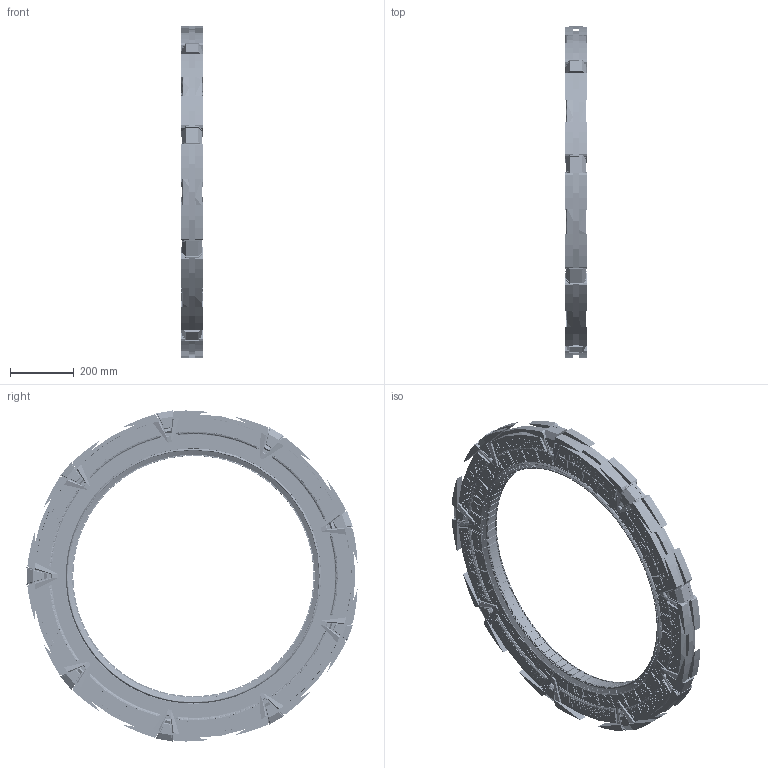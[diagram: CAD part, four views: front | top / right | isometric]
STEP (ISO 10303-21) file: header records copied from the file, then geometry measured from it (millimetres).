
FILE_DESCRIPTION((''),'2;1');
FILE_NAME('D:\Munka\Saját\Csillagkapu\Stargate.stp','2014-10-12T21:04:05',('user'),(''),'Autodesk Inventor 2012','Autodesk Inventor 2012','');
FILE_SCHEMA(('AUTOMOTIVE_DESIGN { 1 0 10303 214 1 1 1 1 }'));
Length unit declared in the file: millimetre
Products named in the file (12): Stargate; Ring; Chavron_1; Chevron Part1; Chevron small light; Chevron small light2; Part1; Ring2; Chevron Light; Chevron light; Chevron light panel
Assembly tree (54 placements, depth 3):
  Stargate
    Stargate  x2
    Ring
    Chavron_1  x18
      Chevron Part1
      Chevron small light
      Chevron small light2
    Part1  x18
    Ring2
    Chevron Light  x9
      Chevron light
      Chevron light panel
Bounding box: 68.5 x 1038.07 x 1040.63 mm (x, y, z)
Volume: 19823956.5 mm3; surface area: 3677987.7 mm2
Topology: 292 solids, 292 shells, 25194 faces, 64343 edges, 42486 vertices
Faces by surface type: plane 14004, cylinder 4060, cone 3280, bspline 2041, torus 1809
Full cylindrical faces by diameter (mm): 3.551 x1, 3.812 x1, 5.234 x1, 6.991 x1, 11.975 x1, 760 x2, 790 x4, 800 x2, 900 x4, 992 x2, 1016 x2
Entity records: 416984 total; most frequent: CARTESIAN_POINT 125854, ORIENTED_EDGE 59650, DIRECTION 55481, EDGE_CURVE 29825, AXIS2_PLACEMENT_3D 19694, VERTEX_POINT 19589, VECTOR 16093, LINE 16093
